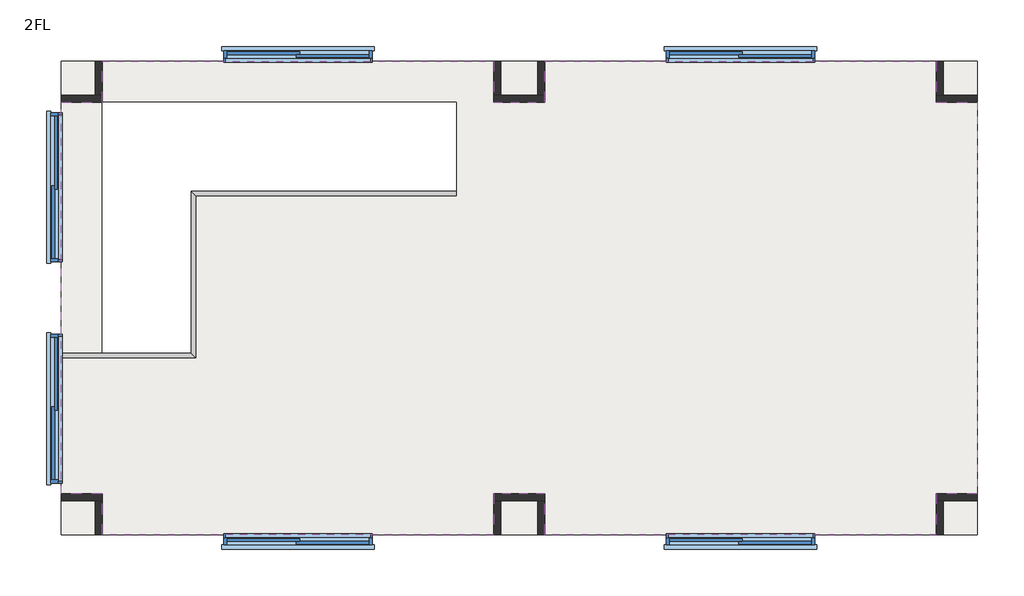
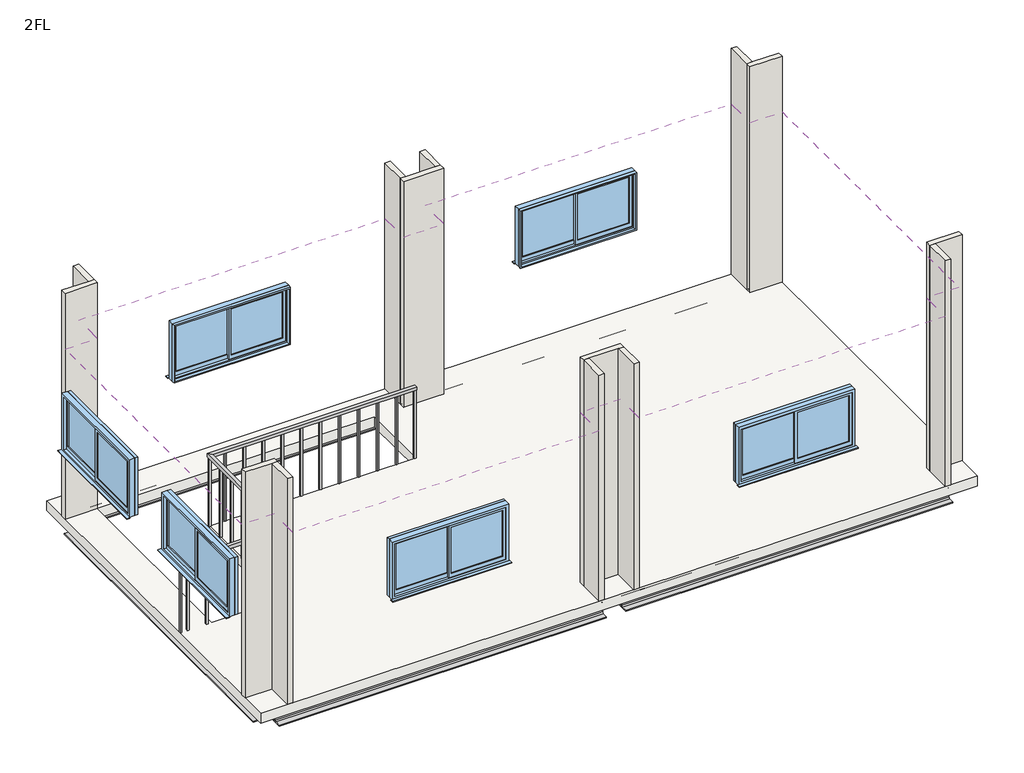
# One storey: 14 walls, 7 beams, 6 windows, 1 covering, 1 railing, 1 slab.
"""IFC4 building model written with IfcOpenShell, lengths in millimetres."""

import ifcopenshell
import ifcopenshell.guid

model = None  # the IFC model being written
_history = None  # IfcOwnerHistory: only IFC2X3 demands one
_inside = {}  # id of a spatial element -> (the spatial element, [elements in it])
_under = {}  # id of a project, library or spatial element -> (it, [spatial elements below it])
_declared = {}  # id of a project -> (the project, [libraries it declares])
_typed = {}  # id of a type object -> (the type object, [elements of that type])
_made_of = {}  # id of a material, layer set ... -> (it, [elements and type objects made of it])


def new_model(schema):
    """Start an empty IFC model of exactly this schema.

    Asked for "IFC4X3", IfcOpenShell would pick the latest addendum, in which some entities
    have other attributes; the version numbers below select the first issue.
    IFC2X3 requires an IfcOwnerHistory on every rooted entity: one is made here for all.
    """
    global model, _history
    if schema == "IFC4X3":
        model = ifcopenshell.file(schema_version=(4, 3, 0, 0))
    else:
        model = ifcopenshell.file(schema=schema)
    _inside.clear()
    _under.clear()
    _declared.clear()
    _typed.clear()
    _made_of.clear()
    _history = None
    if model.schema == "IFC2X3":
        org = make("IfcOrganization", Name="unknown")
        user = make(
            "IfcPersonAndOrganization",
            ThePerson=make("IfcPerson", FamilyName="unknown"),
            TheOrganization=org,
        )
        app = make(
            "IfcApplication",
            ApplicationDeveloper=org,
            Version="unknown",
            ApplicationFullName="unknown",
            ApplicationIdentifier="unknown",
        )
        _history = make(
            "IfcOwnerHistory",
            OwningUser=user,
            OwningApplication=app,
            ChangeAction="ADDED",
            CreationDate=0,
        )
    return model


def make(cls, **values):
    """One entity of the class cls with the attributes given. An attribute that is None is left unset."""
    return model.create_entity(
        cls, **{name: value for name, value in values.items() if value is not None}
    )


def rooted(cls, **values):
    """An entity with a GlobalId (a new one), such as an element, a storey or a relation."""
    return make(cls, GlobalId=ifcopenshell.guid.new(), OwnerHistory=_history, **values)


def si_unit(unit_type, name, prefix=None):
    """IfcSIUnit, for example si_unit("LENGTHUNIT", "METRE", prefix="MILLI")."""
    return make("IfcSIUnit", UnitType=unit_type, Prefix=prefix, Name=name)


def assignment(units):
    """IfcUnitAssignment: the units of a project."""
    return None if units is None else make("IfcUnitAssignment", Units=units)


def point(xyz):
    """IfcCartesianPoint."""
    return None if xyz is None else make("IfcCartesianPoint", Coordinates=xyz)


def direction(xyz):
    """IfcDirection."""
    return None if xyz is None else make("IfcDirection", DirectionRatios=xyz)


def frame(location, z_axis=None, x_axis=None):
    """IfcAxis2Placement3D, a coordinate frame: its origin and axes. An axis left out is left unset."""
    return make(
        "IfcAxis2Placement3D",
        Location=point(location),
        Axis=direction(z_axis),
        RefDirection=direction(x_axis),
    )


def frame_2d(location, x_axis=None):
    """IfcAxis2Placement2D, a coordinate frame in the plane: its origin and x axis."""
    return make(
        "IfcAxis2Placement2D", Location=point(location), RefDirection=direction(x_axis)
    )


def origin():
    """The frame at (0, 0, 0) with its axes left unset."""
    return frame((0.0, 0.0, 0.0))


def place(relative_to, where):
    """IfcLocalPlacement: puts the frame where relative to a parent placement (None: the world)."""
    return make(
        "IfcLocalPlacement", PlacementRelTo=relative_to, RelativePlacement=where
    )


def context(
    kind, dimensions, precision=None, world=None, true_north=None, identifier=None
):
    """IfcGeometricRepresentationContext, for example the 3D "Model" context."""
    return make(
        "IfcGeometricRepresentationContext",
        ContextIdentifier=identifier,
        ContextType=kind,
        CoordinateSpaceDimension=dimensions,
        Precision=precision,
        WorldCoordinateSystem=world,
        TrueNorth=true_north,
    )


def project(units=None, contexts=None):
    """IfcProject with its units and contexts."""
    return rooted(
        "IfcProject",
        Name="project",
        RepresentationContexts=contexts,
        UnitsInContext=assignment(units),
    )


def spatial(cls, under=None, at=None, **own):
    """A site, building, storey or space (cls), placed at a placement, below another one or the project."""
    s = rooted(cls, ObjectPlacement=at, **own)
    if under is not None:
        _under.setdefault(under.id(), (under, []))[1].append(s)
    return s


def polyline(points):
    """IfcPolyline through the points."""
    return make("IfcPolyline", Points=[point(p) for p in points])


def circle_curve(where, radius):
    """IfcCircle in the frame where."""
    return make("IfcCircle", Position=where, Radius=radius)


def trimmed(basis, trim1, trim2, sense, master):
    """IfcTrimmedCurve: the piece of a basis curve between two trims."""
    return make(
        "IfcTrimmedCurve",
        BasisCurve=basis,
        Trim1=trim1,
        Trim2=trim2,
        SenseAgreement=sense,
        MasterRepresentation=master,
    )


def segment(curve, same_sense, transition):
    """IfcCompositeCurveSegment."""
    return make(
        "IfcCompositeCurveSegment",
        Transition=transition,
        SameSense=same_sense,
        ParentCurve=curve,
    )


def composite_curve(segments, self_intersect=None):
    """IfcCompositeCurve: segments joined end to end."""
    return make("IfcCompositeCurve", Segments=segments, SelfIntersect=self_intersect)


def outline(outer, holes=None, kind="AREA"):
    """IfcArbitraryClosedProfileDef: a profile drawn as a closed curve; with holes, ...WithVoids."""
    if holes is None:
        return make("IfcArbitraryClosedProfileDef", ProfileType=kind, OuterCurve=outer)
    return make(
        "IfcArbitraryProfileDefWithVoids",
        ProfileType=kind,
        OuterCurve=outer,
        InnerCurves=holes,
    )


def extrude(swept, where, along, depth):
    """IfcExtrudedAreaSolid: the profile swept, set in the frame where, extruded along a direction by depth."""
    return make(
        "IfcExtrudedAreaSolid",
        SweptArea=swept,
        Position=where,
        ExtrudedDirection=direction(along),
        Depth=depth,
    )


def faces_of(points, faces, orient=None, outer=None):
    """IfcFace entities. A face is a list of loops; a loop is a list of indices into points, from 0.

    orient and outer hold one flag for each loop. By default every Orientation is true, the
    first loop of a face is its IfcFaceOuterBound and the others are IfcFaceBound.
    """
    made = []
    for i, loops in enumerate(faces):
        bounds = []
        for j, loop in enumerate(loops):
            is_outer = j == 0 if outer is None else outer[i][j]
            bounds.append(
                make(
                    "IfcFaceOuterBound" if is_outer else "IfcFaceBound",
                    Bound=make("IfcPolyLoop", Polygon=[points[k] for k in loop]),
                    Orientation=True if orient is None else orient[i][j],
                )
            )
        made.append(make("IfcFace", Bounds=bounds))
    return made


def faceted_brep(points, faces, orient=None, outer=None, voids=None):
    """IfcFacetedBrep: a solid bounded by flat faces; with voids (closed shells), ...WithVoids."""
    shared = [point(p) for p in points]
    hull = make("IfcClosedShell", CfsFaces=faces_of(shared, faces, orient, outer))
    if voids is None:
        return make("IfcFacetedBrep", Outer=hull)
    return make(
        "IfcFacetedBrepWithVoids",
        Outer=hull,
        Voids=[
            make(cls, CfsFaces=faces_of(shared, fs, o, b)) for cls, fs, o, b in voids
        ],
    )


def shape(context_of_items, identifier, shape_type, items):
    """IfcShapeRepresentation: the items that make up one representation, for example the "Body"."""
    return make(
        "IfcShapeRepresentation",
        ContextOfItems=context_of_items,
        RepresentationIdentifier=identifier,
        RepresentationType=shape_type,
        Items=items,
    )


def source(mapping_origin, context_of_items, identifier, shape_type, items):
    """IfcRepresentationMap: a shape defined once, which mapped items show again and again."""
    return make(
        "IfcRepresentationMap",
        MappingOrigin=mapping_origin,
        MappedRepresentation=shape(context_of_items, identifier, shape_type, items),
    )


def transform(
    local_origin,
    x_axis=None,
    y_axis=None,
    z_axis=None,
    scale=None,
    scale2=None,
    scale3=None,
    uniform=True,
):
    """IfcCartesianTransformationOperator3D, or its non-uniform kind. x_axis, y_axis, z_axis: its Axis1, 2, 3."""
    if uniform:
        return make(
            "IfcCartesianTransformationOperator3D",
            Axis1=direction(x_axis),
            Axis2=direction(y_axis),
            LocalOrigin=point(local_origin),
            Scale=scale,
            Axis3=direction(z_axis),
        )
    return make(
        "IfcCartesianTransformationOperator3DnonUniform",
        Axis1=direction(x_axis),
        Axis2=direction(y_axis),
        LocalOrigin=point(local_origin),
        Scale=scale,
        Axis3=direction(z_axis),
        Scale2=scale2,
        Scale3=scale3,
    )


def mapped(mapping_source, mapping_target):
    """IfcMappedItem: shows the shape of a source again, moved by a transform."""
    return make(
        "IfcMappedItem", MappingSource=mapping_source, MappingTarget=mapping_target
    )


def made_of(thing, what):
    """Note that an element or type object is made of a material, layer set ...; save() writes the relation."""
    if what is not None:
        _made_of.setdefault(what.id(), (what, []))[1].append(thing)
    return thing


def element(
    cls,
    number,
    at=None,
    inside=None,
    cuts=None,
    type_object=None,
    material=None,
    context=None,
    identifier="Body",
    shape_type=None,
    held_by="IfcProductDefinitionShape",
    body=None,
    shapes=None,
    **own,
):
    """One element of the class cls, such as IfcWall. Its Tag is "e" and its number.

    at: its placement. inside: the storey or other place that contains it. cuts: it is an
    opening in that element (IfcRelVoidsElement). A single representation is given by context,
    identifier, shape_type and body (its items); several are given by shapes. held_by: the class
    of the entity that holds the representations. save() writes the other relations.
    """
    e = rooted(cls, Tag="e%d" % number, ObjectPlacement=at, **own)
    if body is not None:
        shapes = [shape(context, identifier, shape_type, body)]
    if shapes is not None:
        e.Representation = make(held_by, Representations=shapes)
    if inside is not None:
        _inside.setdefault(inside.id(), (inside, []))[1].append(e)
    if cuts is not None:
        rooted(
            "IfcRelVoidsElement", RelatingBuildingElement=cuts, RelatedOpeningElement=e
        )
    if type_object is not None:
        _typed.setdefault(type_object.id(), (type_object, []))[1].append(e)
    return made_of(e, material)


def aggregate(whole, parts):
    """IfcRelAggregates: a whole, such as a stair, and the parts it consists of."""
    return rooted("IfcRelAggregates", RelatingObject=whole, RelatedObjects=parts)


def save(model, path):
    """Write the relations noted so far, then the file.

    IfcRelAggregates (storeys below a building ...), IfcRelContainedInSpatialStructure (elements
    in a storey), IfcRelDefinesByType, IfcRelAssociatesMaterial and IfcRelDeclares: one each for
    every whole, place, type object, material and project.
    """
    for whole, parts in _under.values():
        aggregate(whole, parts)
    for where, things in _inside.values():
        rooted(
            "IfcRelContainedInSpatialStructure",
            RelatedElements=things,
            RelatingStructure=where,
        )
    for kind, things in _typed.values():
        rooted("IfcRelDefinesByType", RelatedObjects=things, RelatingType=kind)
    for what, things in _made_of.values():
        rooted("IfcRelAssociatesMaterial", RelatedObjects=things, RelatingMaterial=what)
    for by, libraries in _declared.values():
        rooted("IfcRelDeclares", RelatingContext=by, RelatedDefinitions=libraries)
    model.write(path)


def heb200_d26bcb9a(model_context):
    return source(origin(), model_context, "Body", "SweptSolid", [
        extrude(outline(composite_curve([segment(polyline([(100.0, -85.0), (100.0, -100.0), (-100.0, -100.0), (-100.0, -85.0), (-22.5, -85.0)]), True, "CONTINUOUS"), segment(trimmed(circle_curve(frame_2d((-22.5, -67.0)), 18.0), [point((-22.5, -85.0))], [point((-4.5, -67.0))], True, "CARTESIAN"), True, "CONTINUOUS"), segment(polyline([(-4.5, -67.0), (-4.5, 67.0)]), True, "CONTINUOUS"), segment(trimmed(circle_curve(frame_2d((-22.5, 67.0)), 18.0), [point((-4.5, 67.0))], [point((-22.5, 85.0))], True, "CARTESIAN"), True, "CONTINUOUS"), segment(polyline([(-22.5, 85.0), (-100.0, 85.0), (-100.0, 100.0), (100.0, 100.0), (100.0, 85.0), (22.5, 85.0)]), True, "CONTINUOUS"), segment(trimmed(circle_curve(frame_2d((22.5, 67.0)), 18.0), [point((22.5, 85.0))], [point((4.5, 67.0))], True, "CARTESIAN"), True, "CONTINUOUS"), segment(polyline([(4.5, 67.0), (4.5, -67.0)]), True, "CONTINUOUS"), segment(trimmed(circle_curve(frame_2d((22.5, -67.0)), 18.0), [point((4.5, -67.0))], [point((22.5, -85.0))], True, "CARTESIAN"), True, "CONTINUOUS"), segment(polyline([(22.5, -85.0), (100.0, -85.0)]), True, "CONTINUOUS")], self_intersect=False)), frame((-2362.3, 0.0, 0.0), z_axis=(1.0, 0.0, 0.0), x_axis=(0.0, 1.0, 0.0)), (0.0, 0.0, 1.0), 4724.6),
    ])


def w1600h0800_d7cd19be(model_context):
    return source(origin(), model_context, "Body", "SweptSolid", [
        extrude(outline(polyline([(-20.0, 12.5), (-760.0, 12.5), (-760.0, 17.5), (-20.0, 17.5), (-20.0, 12.5)])), frame((0.0, 0.0, 1260.0), z_axis=(0.0, 0.0, 1.0), x_axis=(1.0, 0.0, 0.0)), (0.0, 0.0, 1.0), 700.0),
        extrude(outline(polyline([(760.0, -17.5), (20.0, -17.5), (20.0, -12.5), (760.0, -12.5), (760.0, -17.5)])), frame((0.0, 0.0, 1260.0), z_axis=(0.0, 0.0, 1.0), x_axis=(1.0, 0.0, 0.0)), (0.0, 0.0, 1.0), 700.0),
        extrude(outline(polyline([(2000.0, -20.0), (1200.0, -20.0), (1200.0, 800.0), (2000.0, 800.0), (2000.0, -20.0)]), holes=[polyline([(1260.0, 760.0), (1260.0, 20.0), (1960.0, 20.0), (1960.0, 760.0), (1260.0, 760.0)])]), frame((0.0, -30.0, 0.0), z_axis=(0.0, 1.0, 0.0), x_axis=(0.0, 0.0, 1.0)), (0.0, 0.0, 1.0), 30.0),
        extrude(outline(polyline([(2000.0, -800.0), (1200.0, -800.0), (1200.0, 20.0), (2000.0, 20.0), (2000.0, -800.0)]), holes=[polyline([(1260.0, -20.0), (1260.0, -760.0), (1960.0, -760.0), (1960.0, -20.0), (1260.0, -20.0)])]), frame((0.0, 0.0, 0.0), z_axis=(0.0, 1.0, 0.0), x_axis=(0.0, 0.0, 1.0)), (0.0, 0.0, 1.0), 30.0),
        extrude(outline(polyline([(860.0, 90.0), (860.0, 40.0), (-860.0, 40.0), (-860.0, 90.0), (860.0, 90.0)])), frame((0.0, 0.0, 1160.0), z_axis=(0.0, 0.0, 1.0), x_axis=(1.0, 0.0, 0.0)), (0.0, 0.0, 1.0), 10.0),
        extrude(outline(polyline([(2040.0, 840.0), (2040.0, -840.0), (1160.0, -840.0), (1160.0, 840.0), (2040.0, 840.0)]), holes=[polyline([(1180.0, -820.0), (2020.0, -820.0), (2020.0, 820.0), (1180.0, 820.0), (1180.0, -820.0)])]), frame((0.0, -85.0, 0.0), z_axis=(0.0, 1.0, 0.0), x_axis=(0.0, 0.0, 1.0)), (0.0, 0.0, 1.0), 45.0),
        extrude(outline(polyline([(2040.0, -840.0), (1160.0, -840.0), (1160.0, 840.0), (2040.0, 840.0), (2040.0, -840.0)]), holes=[polyline([(2000.0, 800.0), (1200.0, 800.0), (1200.0, -800.0), (2000.0, -800.0), (2000.0, 800.0)])]), frame((0.0, -40.0, 0.0), z_axis=(0.0, 1.0, 0.0), x_axis=(0.0, 0.0, 1.0)), (0.0, 0.0, 1.0), 80.0),
    ])


model = new_model("IFC4")

# Units and contexts
model_context = context("Model", 3, world=origin())
ifc_project = project(units=[si_unit("LENGTHUNIT", "METRE", prefix="MILLI")], contexts=[model_context])

# Site, building, storey
site = spatial("IfcSite", under=ifc_project)
building = spatial("IfcBuilding", under=site)
storey = spatial("IfcBuildingStorey", under=building, Name="2FL", Elevation=3800.0)

# Beams
placement = place(None, origin())
heb200_shape = heb200_d26bcb9a(model_context)
element("IfcBeam", 1, ObjectType="HE-B : HEB200", at=placement, inside=storey, context=model_context, shape_type="MappedRepresentation", body=[
    mapped(heb200_shape, transform((-5047.3880564, 86.0382733, 3550.0), x_axis=(0.0, -1.0, 0.0), y_axis=(1.0, 0.0, 0.0), z_axis=(0.0, 0.0, 1.0))),
])
element("IfcBeam", 2, ObjectType="HE-B : HEB200", at=placement, inside=storey, context=model_context, shape_type="MappedRepresentation", body=[
    mapped(heb200_shape, transform((-47.3880564, 86.0382733, 3550.0), x_axis=(0.0, -1.0, 0.0), y_axis=(1.0, 0.0, 0.0), z_axis=(0.0, 0.0, 1.0))),
])
element("IfcBeam", 3, ObjectType="HE-B : HEB200", at=placement, inside=storey, context=model_context, shape_type="MappedRepresentation", body=[
    mapped(heb200_shape, transform((4952.6119436, 86.0382733, 3550.0), x_axis=(0.0, -1.0, 0.0), y_axis=(1.0, 0.0, 0.0), z_axis=(0.0, 0.0, 1.0))),
])
element("IfcBeam", 4, ObjectType="HE-B : HEB200", at=placement, inside=storey, context=model_context, shape_type="MappedRepresentation", body=[
    mapped(heb200_shape, transform((2452.6119436, -2413.9617267, 3550.0), x_axis=(-1.0, 0.0, 0.0), y_axis=(0.0, -1.0, 0.0), z_axis=(0.0, 0.0, 1.0))),
])
element("IfcBeam", 5, ObjectType="HE-B : HEB200", at=placement, inside=storey, context=model_context, shape_type="MappedRepresentation", body=[
    mapped(heb200_shape, transform((-2547.3880564, -2413.9617267, 3550.0), x_axis=(-1.0, 0.0, 0.0), y_axis=(0.0, -1.0, 0.0), z_axis=(0.0, 0.0, 1.0))),
])
element("IfcBeam", 6, ObjectType="HE-B : HEB200", at=placement, inside=storey, context=model_context, shape_type="MappedRepresentation", body=[
    mapped(heb200_shape, transform((2452.6119436, 2586.0382733, 3550.0), x_axis=(-1.0, 0.0, 0.0), y_axis=(0.0, -1.0, 0.0), z_axis=(0.0, 0.0, 1.0))),
])
element("IfcBeam", 7, ObjectType="HE-B : HEB200", at=placement, inside=storey, context=model_context, shape_type="MappedRepresentation", body=[
    mapped(heb200_shape, transform((-2547.3880564, 2586.0382733, 3550.0), x_axis=(-1.0, 0.0, 0.0), y_axis=(0.0, -1.0, 0.0), z_axis=(0.0, 0.0, 1.0))),
])

# Covering
element("IfcCovering", 8, ObjectType="グリッド 600x600mm", at=placement, inside=storey, context=model_context, shape_type="SweptSolid", body=[
    extrude(outline(polyline([(-4757.8880564, 2296.5382733), (-4757.8880564, 2761.0382733), (-336.8880564, 2761.0382733), (-336.8880564, 2296.5382733), (242.1119436, 2296.5382733), (242.1119436, 2761.0382733), (4663.1119436, 2761.0382733), (4663.1119436, 2296.5382733), (5127.6119436, 2296.5382733), (5127.6119436, -2124.4617267), (4663.1119436, -2124.4617267), (4663.1119436, -2588.9617267), (242.1119436, -2588.9617267), (242.1119436, -2124.4617267), (-336.8880564, -2124.4617267), (-336.8880564, -2588.9617267), (-4757.8880564, -2588.9617267), (-4757.8880564, -2124.4617267), (-5222.3880564, -2124.4617267), (-5222.3880564, 2296.5382733), (-4757.8880564, 2296.5382733)])), frame((0.0, 0.0, 6400.0), z_axis=(0.0, 0.0, 1.0), x_axis=(1.0, 0.0, 0.0)), (0.0, 0.0, 1.0), 52.0),
])

# Railing
element("IfcRailing", 9, ObjectType="1100mm", at=placement, inside=storey, context=model_context, shape_type="SolidModel", body=[
    faceted_brep([(-757.3880564, 1241.5382733, 4900.0), (-757.3880564, 1241.5382733, 4850.0), (-757.3880564, 1291.5382733, 4850.0), (-757.3880564, 1291.5382733, 4900.0), (-3702.8880564, 1241.5382733, 4900.0), (-3702.8880564, 1241.5382733, 4850.0), (-3752.8880564, 1291.5382733, 4850.0), (-3752.8880564, 1291.5382733, 4900.0), (-3702.8880564, -588.9617267, 4900.0), (-3702.8880564, -588.9617267, 4850.0), (-3752.8880564, -538.9617267, 4850.0), (-3752.8880564, -538.9617267, 4900.0), (-5222.3880564, -588.9617267, 4900.0), (-5222.3880564, -538.9617267, 4900.0), (-5222.3880564, -538.9617267, 4850.0), (-5222.3880564, -588.9617267, 4850.0)], [[[0, 1, 2, 3]], [[1, 0, 4, 5]], [[2, 1, 5, 6]], [[3, 2, 6, 7]], [[0, 3, 7, 4]], [[5, 4, 8, 9]], [[6, 5, 9, 10]], [[7, 6, 10, 11]], [[4, 7, 11, 8]], [[12, 13, 14, 15]], [[9, 8, 12, 15]], [[10, 9, 15, 14]], [[11, 10, 14, 13]], [[8, 11, 13, 12]]]),
    extrude(outline(polyline([(-5090.3880564, -551.4617267), (-5090.3880564, -576.4617267), (-5115.3880564, -576.4617267), (-5115.3880564, -551.4617267), (-5090.3880564, -551.4617267)])), frame((0.0, 0.0, 3800.0), z_axis=(0.0, 0.0, 1.0), x_axis=(1.0, 0.0, 0.0)), (0.0, 0.0, 1.0), 1050.0),
    extrude(outline(polyline([(-4815.3880564, -551.4617267), (-4815.3880564, -576.4617267), (-4840.3880564, -576.4617267), (-4840.3880564, -551.4617267), (-4815.3880564, -551.4617267)])), frame((0.0, 0.0, 3800.0), z_axis=(0.0, 0.0, 1.0), x_axis=(1.0, 0.0, 0.0)), (0.0, 0.0, 1.0), 1050.0),
    extrude(outline(polyline([(-4540.3880564, -551.4617267), (-4540.3880564, -576.4617267), (-4565.3880564, -576.4617267), (-4565.3880564, -551.4617267), (-4540.3880564, -551.4617267)])), frame((0.0, 0.0, 3800.0), z_axis=(0.0, 0.0, 1.0), x_axis=(1.0, 0.0, 0.0)), (0.0, 0.0, 1.0), 1050.0),
    extrude(outline(polyline([(-4265.3880564, -551.4617267), (-4265.3880564, -576.4617267), (-4290.3880564, -576.4617267), (-4290.3880564, -551.4617267), (-4265.3880564, -551.4617267)])), frame((0.0, 0.0, 3800.0), z_axis=(0.0, 0.0, 1.0), x_axis=(1.0, 0.0, 0.0)), (0.0, 0.0, 1.0), 1050.0),
    extrude(outline(polyline([(-3990.3880564, -551.4617267), (-3990.3880564, -576.4617267), (-4015.3880564, -576.4617267), (-4015.3880564, -551.4617267), (-3990.3880564, -551.4617267)])), frame((0.0, 0.0, 3800.0), z_axis=(0.0, 0.0, 1.0), x_axis=(1.0, 0.0, 0.0)), (0.0, 0.0, 1.0), 1050.0),
    extrude(outline(polyline([(-3740.3880564, -370.9617267), (-3715.3880564, -370.9617267), (-3715.3880564, -395.9617267), (-3740.3880564, -395.9617267), (-3740.3880564, -370.9617267)])), frame((0.0, 0.0, 3800.0), z_axis=(0.0, 0.0, 1.0), x_axis=(1.0, 0.0, 0.0)), (0.0, 0.0, 1.0), 1050.0),
    extrude(outline(polyline([(-3740.3880564, -95.9617267), (-3715.3880564, -95.9617267), (-3715.3880564, -120.9617267), (-3740.3880564, -120.9617267), (-3740.3880564, -95.9617267)])), frame((0.0, 0.0, 3800.0), z_axis=(0.0, 0.0, 1.0), x_axis=(1.0, 0.0, 0.0)), (0.0, 0.0, 1.0), 1050.0),
    extrude(outline(polyline([(-3740.3880564, 179.0382733), (-3715.3880564, 179.0382733), (-3715.3880564, 154.0382733), (-3740.3880564, 154.0382733), (-3740.3880564, 179.0382733)])), frame((0.0, 0.0, 3800.0), z_axis=(0.0, 0.0, 1.0), x_axis=(1.0, 0.0, 0.0)), (0.0, 0.0, 1.0), 1050.0),
    extrude(outline(polyline([(-3740.3880564, 454.0382733), (-3715.3880564, 454.0382733), (-3715.3880564, 429.0382733), (-3740.3880564, 429.0382733), (-3740.3880564, 454.0382733)])), frame((0.0, 0.0, 3800.0), z_axis=(0.0, 0.0, 1.0), x_axis=(1.0, 0.0, 0.0)), (0.0, 0.0, 1.0), 1050.0),
    extrude(outline(polyline([(-3740.3880564, 729.0382733), (-3715.3880564, 729.0382733), (-3715.3880564, 704.0382733), (-3740.3880564, 704.0382733), (-3740.3880564, 729.0382733)])), frame((0.0, 0.0, 3800.0), z_axis=(0.0, 0.0, 1.0), x_axis=(1.0, 0.0, 0.0)), (0.0, 0.0, 1.0), 1050.0),
    extrude(outline(polyline([(-3740.3880564, 1004.0382733), (-3715.3880564, 1004.0382733), (-3715.3880564, 979.0382733), (-3740.3880564, 979.0382733), (-3740.3880564, 1004.0382733)])), frame((0.0, 0.0, 3800.0), z_axis=(0.0, 0.0, 1.0), x_axis=(1.0, 0.0, 0.0)), (0.0, 0.0, 1.0), 1050.0),
    extrude(outline(polyline([(-3494.8880564, 1279.0382733), (-3494.8880564, 1254.0382733), (-3519.8880564, 1254.0382733), (-3519.8880564, 1279.0382733), (-3494.8880564, 1279.0382733)])), frame((0.0, 0.0, 3800.0), z_axis=(0.0, 0.0, 1.0), x_axis=(1.0, 0.0, 0.0)), (0.0, 0.0, 1.0), 1050.0),
    extrude(outline(polyline([(-3219.8880564, 1279.0382733), (-3219.8880564, 1254.0382733), (-3244.8880564, 1254.0382733), (-3244.8880564, 1279.0382733), (-3219.8880564, 1279.0382733)])), frame((0.0, 0.0, 3800.0), z_axis=(0.0, 0.0, 1.0), x_axis=(1.0, 0.0, 0.0)), (0.0, 0.0, 1.0), 1050.0),
    extrude(outline(polyline([(-2944.8880564, 1279.0382733), (-2944.8880564, 1254.0382733), (-2969.8880564, 1254.0382733), (-2969.8880564, 1279.0382733), (-2944.8880564, 1279.0382733)])), frame((0.0, 0.0, 3800.0), z_axis=(0.0, 0.0, 1.0), x_axis=(1.0, 0.0, 0.0)), (0.0, 0.0, 1.0), 1050.0),
    extrude(outline(polyline([(-2669.8880564, 1279.0382733), (-2669.8880564, 1254.0382733), (-2694.8880564, 1254.0382733), (-2694.8880564, 1279.0382733), (-2669.8880564, 1279.0382733)])), frame((0.0, 0.0, 3800.0), z_axis=(0.0, 0.0, 1.0), x_axis=(1.0, 0.0, 0.0)), (0.0, 0.0, 1.0), 1050.0),
    extrude(outline(polyline([(-2394.8880564, 1279.0382733), (-2394.8880564, 1254.0382733), (-2419.8880564, 1254.0382733), (-2419.8880564, 1279.0382733), (-2394.8880564, 1279.0382733)])), frame((0.0, 0.0, 3800.0), z_axis=(0.0, 0.0, 1.0), x_axis=(1.0, 0.0, 0.0)), (0.0, 0.0, 1.0), 1050.0),
    extrude(outline(polyline([(-2119.8880564, 1279.0382733), (-2119.8880564, 1254.0382733), (-2144.8880564, 1254.0382733), (-2144.8880564, 1279.0382733), (-2119.8880564, 1279.0382733)])), frame((0.0, 0.0, 3800.0), z_axis=(0.0, 0.0, 1.0), x_axis=(1.0, 0.0, 0.0)), (0.0, 0.0, 1.0), 1050.0),
    extrude(outline(polyline([(-1844.8880564, 1279.0382733), (-1844.8880564, 1254.0382733), (-1869.8880564, 1254.0382733), (-1869.8880564, 1279.0382733), (-1844.8880564, 1279.0382733)])), frame((0.0, 0.0, 3800.0), z_axis=(0.0, 0.0, 1.0), x_axis=(1.0, 0.0, 0.0)), (0.0, 0.0, 1.0), 1050.0),
    extrude(outline(polyline([(-1569.8880564, 1279.0382733), (-1569.8880564, 1254.0382733), (-1594.8880564, 1254.0382733), (-1594.8880564, 1279.0382733), (-1569.8880564, 1279.0382733)])), frame((0.0, 0.0, 3800.0), z_axis=(0.0, 0.0, 1.0), x_axis=(1.0, 0.0, 0.0)), (0.0, 0.0, 1.0), 1050.0),
    extrude(outline(polyline([(-1294.8880564, 1279.0382733), (-1294.8880564, 1254.0382733), (-1319.8880564, 1254.0382733), (-1319.8880564, 1279.0382733), (-1294.8880564, 1279.0382733)])), frame((0.0, 0.0, 3800.0), z_axis=(0.0, 0.0, 1.0), x_axis=(1.0, 0.0, 0.0)), (0.0, 0.0, 1.0), 1050.0),
    extrude(outline(polyline([(-1019.8880564, 1279.0382733), (-1019.8880564, 1254.0382733), (-1044.8880564, 1254.0382733), (-1044.8880564, 1279.0382733), (-1019.8880564, 1279.0382733)])), frame((0.0, 0.0, 3800.0), z_axis=(0.0, 0.0, 1.0), x_axis=(1.0, 0.0, 0.0)), (0.0, 0.0, 1.0), 1050.0),
    extrude(outline(polyline([(-3740.3880564, -551.4617267), (-3715.3880564, -551.4617267), (-3715.3880564, -576.4617267), (-3740.3880564, -576.4617267), (-3740.3880564, -551.4617267)])), frame((0.0, 0.0, 3800.0), z_axis=(0.0, 0.0, 1.0), x_axis=(1.0, 0.0, 0.0)), (0.0, 0.0, 1.0), 1050.0),
    extrude(outline(polyline([(-3715.3880564, 1279.0382733), (-3715.3880564, 1254.0382733), (-3740.3880564, 1254.0382733), (-3740.3880564, 1279.0382733), (-3715.3880564, 1279.0382733)])), frame((0.0, 0.0, 3800.0), z_axis=(0.0, 0.0, 1.0), x_axis=(1.0, 0.0, 0.0)), (0.0, 0.0, 1.0), 1050.0),
    extrude(outline(polyline([(-5197.3880564, -551.4617267), (-5197.3880564, -576.4617267), (-5222.3880564, -576.4617267), (-5222.3880564, -551.4617267), (-5197.3880564, -551.4617267)])), frame((0.0, 0.0, 3800.0), z_axis=(0.0, 0.0, 1.0), x_axis=(1.0, 0.0, 0.0)), (0.0, 0.0, 1.0), 1050.0),
    extrude(outline(polyline([(-757.3880564, 1279.0382733), (-757.3880564, 1254.0382733), (-782.3880564, 1254.0382733), (-782.3880564, 1279.0382733), (-757.3880564, 1279.0382733)])), frame((0.0, 0.0, 3800.0), z_axis=(0.0, 0.0, 1.0), x_axis=(1.0, 0.0, 0.0)), (0.0, 0.0, 1.0), 1050.0),
])

# Slab
element("IfcSlab", 10, ObjectType="一般 150 mm", at=placement, inside=storey, context=model_context, shape_type="SweptSolid", body=[
    extrude(outline(polyline([(5127.6119436, 2761.0382733), (5127.6119436, -2588.9617267), (-5222.3880564, -2588.9617267), (-5222.3880564, 2761.0382733), (5127.6119436, 2761.0382733)]), holes=[polyline([(-3727.8880564, 1266.5382733), (-757.3880564, 1266.5382733), (-757.3880564, 2296.5382733), (-4757.8880564, 2296.5382733), (-4757.8880564, -563.9617267), (-3727.8880564, -563.9617267), (-3727.8880564, 1266.5382733)])]), frame((0.0, 0.0, 3650.0), z_axis=(0.0, 0.0, 1.0), x_axis=(1.0, 0.0, 0.0)), (0.0, 0.0, 1.0), 150.0),
])

# Walls
element("IfcWall", 11, ObjectType="内壁-79mm 間仕切り(1時間)", at=placement, inside=storey, context=model_context, shape_type="SweptSolid", body=[
    extrude(outline(polyline([(-4836.8880564, 2375.5382733), (-4836.8880564, 2761.0382733), (-4757.8880564, 2761.0382733), (-4757.8880564, 2375.5382733), (-4836.8880564, 2375.5382733)])), frame((0.0, 0.0, 3800.0), z_axis=(0.0, 0.0, 1.0), x_axis=(1.0, 0.0, 0.0)), (0.0, 0.0, 1.0), 3450.0),
])
element("IfcWall", 12, ObjectType="内壁-79mm 間仕切り(1時間)", at=placement, inside=storey, context=model_context, shape_type="Brep", body=[
    faceted_brep([(-4757.8880564, 2375.5382733, 3800.0), (-4836.8880564, 2375.5382733, 3800.0), (-5222.3880564, 2375.5382733, 3800.0), (-5222.3880564, 2375.5382733, 7250.0), (-4836.8880564, 2375.5382733, 7250.0), (-4757.8880564, 2375.5382733, 7250.0), (-4757.8880564, 2296.5382733, 3800.0), (-4757.8880564, 2296.5382733, 7250.0), (-5222.3880564, 2296.5382733, 7250.0), (-5222.3880564, 2296.5382733, 3800.0)], [[[0, 1, 2, 3, 4, 5]], [[6, 7, 8, 9]], [[2, 1, 0, 6, 9]], [[5, 4, 3, 8, 7]], [[0, 5, 7, 6]], [[3, 2, 9, 8]]]),
])
element("IfcWall", 13, ObjectType="内壁-79mm 間仕切り(1時間)", at=placement, inside=storey, context=model_context, shape_type="SweptSolid", body=[
    extrude(outline(polyline([(163.1119436, 2375.5382733), (163.1119436, 2761.0382733), (242.1119436, 2761.0382733), (242.1119436, 2375.5382733), (163.1119436, 2375.5382733)])), frame((0.0, 0.0, 3800.0), z_axis=(0.0, 0.0, 1.0), x_axis=(1.0, 0.0, 0.0)), (0.0, 0.0, 1.0), 3450.0),
])
element("IfcWall", 14, ObjectType="内壁-79mm 間仕切り(1時間)", at=placement, inside=storey, context=model_context, shape_type="Brep", body=[
    faceted_brep([(242.1119436, 2375.5382733, 3800.0), (163.1119436, 2375.5382733, 3800.0), (-257.8880564, 2375.5382733, 3800.0), (-336.8880564, 2375.5382733, 3800.0), (-336.8880564, 2375.5382733, 7250.0), (-257.8880564, 2375.5382733, 7250.0), (163.1119436, 2375.5382733, 7250.0), (242.1119436, 2375.5382733, 7250.0), (242.1119436, 2296.5382733, 3800.0), (242.1119436, 2296.5382733, 7250.0), (-336.8880564, 2296.5382733, 7250.0), (-336.8880564, 2296.5382733, 3800.0)], [[[0, 1, 2, 3, 4, 5, 6, 7]], [[8, 9, 10, 11]], [[3, 2, 1, 0, 8, 11]], [[7, 6, 5, 4, 10, 9]], [[0, 7, 9, 8]], [[4, 3, 11, 10]]]),
])
element("IfcWall", 15, ObjectType="内壁-79mm 間仕切り(1時間)", at=placement, inside=storey, context=model_context, shape_type="SweptSolid", body=[
    extrude(outline(polyline([(-257.8880564, 2761.0382733), (-257.8880564, 2375.5382733), (-336.8880564, 2375.5382733), (-336.8880564, 2761.0382733), (-257.8880564, 2761.0382733)])), frame((0.0, 0.0, 3800.0), z_axis=(0.0, 0.0, 1.0), x_axis=(1.0, 0.0, 0.0)), (0.0, 0.0, 1.0), 3450.0),
])
element("IfcWall", 16, ObjectType="内壁-79mm 間仕切り(1時間)", at=placement, inside=storey, context=model_context, shape_type="SweptSolid", body=[
    extrude(outline(polyline([(4663.1119436, 2375.5382733), (4663.1119436, 2761.0382733), (4742.1119436, 2761.0382733), (4742.1119436, 2375.5382733), (4663.1119436, 2375.5382733)])), frame((0.0, 0.0, 3800.0), z_axis=(0.0, 0.0, 1.0), x_axis=(1.0, 0.0, 0.0)), (0.0, 0.0, 1.0), 3450.0),
])
element("IfcWall", 17, ObjectType="内壁-79mm 間仕切り(1時間)", at=placement, inside=storey, context=model_context, shape_type="Brep", body=[
    faceted_brep([(4663.1119436, 2296.5382733, 3800.0), (5127.6119436, 2296.5382733, 3800.0), (5127.6119436, 2296.5382733, 7250.0), (4663.1119436, 2296.5382733, 7250.0), (4663.1119436, 2375.5382733, 3800.0), (4663.1119436, 2375.5382733, 7250.0), (4742.1119436, 2375.5382733, 7250.0), (5127.6119436, 2375.5382733, 7250.0), (5127.6119436, 2375.5382733, 3800.0), (4742.1119436, 2375.5382733, 3800.0)], [[[0, 1, 2, 3]], [[4, 5, 6, 7, 8, 9]], [[1, 0, 4, 9, 8]], [[3, 2, 7, 6, 5]], [[0, 3, 5, 4]], [[2, 1, 8, 7]]]),
])
element("IfcWall", 18, ObjectType="内壁-79mm 間仕切り(1時間)", at=placement, inside=storey, context=model_context, shape_type="SweptSolid", body=[
    extrude(outline(polyline([(-4757.8880564, -2203.4617267), (-4757.8880564, -2588.9617267), (-4836.8880564, -2588.9617267), (-4836.8880564, -2203.4617267), (-4757.8880564, -2203.4617267)])), frame((0.0, 0.0, 3800.0), z_axis=(0.0, 0.0, 1.0), x_axis=(1.0, 0.0, 0.0)), (0.0, 0.0, 1.0), 3450.0),
])
element("IfcWall", 19, ObjectType="内壁-79mm 間仕切り(1時間)", at=placement, inside=storey, context=model_context, shape_type="Brep", body=[
    faceted_brep([(-4757.8880564, -2124.4617267, 3800.0), (-5222.3880564, -2124.4617267, 3800.0), (-5222.3880564, -2124.4617267, 7250.0), (-4757.8880564, -2124.4617267, 7250.0), (-4757.8880564, -2203.4617267, 3800.0), (-4757.8880564, -2203.4617267, 7250.0), (-4836.8880564, -2203.4617267, 7250.0), (-5222.3880564, -2203.4617267, 7250.0), (-5222.3880564, -2203.4617267, 3800.0), (-4836.8880564, -2203.4617267, 3800.0)], [[[0, 1, 2, 3]], [[4, 5, 6, 7, 8, 9]], [[1, 0, 4, 9, 8]], [[3, 2, 7, 6, 5]], [[0, 3, 5, 4]], [[2, 1, 8, 7]]]),
])
element("IfcWall", 20, ObjectType="内壁-79mm 間仕切り(1時間)", at=placement, inside=storey, context=model_context, shape_type="SweptSolid", body=[
    extrude(outline(polyline([(242.1119436, -2203.4617267), (242.1119436, -2588.9617267), (163.1119436, -2588.9617267), (163.1119436, -2203.4617267), (242.1119436, -2203.4617267)])), frame((0.0, 0.0, 3800.0), z_axis=(0.0, 0.0, 1.0), x_axis=(1.0, 0.0, 0.0)), (0.0, 0.0, 1.0), 3450.0),
])
element("IfcWall", 21, ObjectType="内壁-79mm 間仕切り(1時間)", at=placement, inside=storey, context=model_context, shape_type="Brep", body=[
    faceted_brep([(242.1119436, -2124.4617267, 3800.0), (-336.8880564, -2124.4617267, 3800.0), (-336.8880564, -2124.4617267, 7250.0), (242.1119436, -2124.4617267, 7250.0), (242.1119436, -2203.4617267, 3800.0), (242.1119436, -2203.4617267, 7250.0), (163.1119436, -2203.4617267, 7250.0), (-257.8880564, -2203.4617267, 7250.0), (-336.8880564, -2203.4617267, 7250.0), (-336.8880564, -2203.4617267, 3800.0), (-257.8880564, -2203.4617267, 3800.0), (163.1119436, -2203.4617267, 3800.0)], [[[0, 1, 2, 3]], [[4, 5, 6, 7, 8, 9, 10, 11]], [[1, 0, 4, 11, 10, 9]], [[3, 2, 8, 7, 6, 5]], [[0, 3, 5, 4]], [[2, 1, 9, 8]]]),
])
element("IfcWall", 22, ObjectType="内壁-79mm 間仕切り(1時間)", at=placement, inside=storey, context=model_context, shape_type="SweptSolid", body=[
    extrude(outline(polyline([(-336.8880564, -2588.9617267), (-336.8880564, -2203.4617267), (-257.8880564, -2203.4617267), (-257.8880564, -2588.9617267), (-336.8880564, -2588.9617267)])), frame((0.0, 0.0, 3800.0), z_axis=(0.0, 0.0, 1.0), x_axis=(1.0, 0.0, 0.0)), (0.0, 0.0, 1.0), 3450.0),
])
element("IfcWall", 23, ObjectType="内壁-79mm 間仕切り(1時間)", at=placement, inside=storey, context=model_context, shape_type="SweptSolid", body=[
    extrude(outline(polyline([(4742.1119436, -2203.4617267), (4742.1119436, -2588.9617267), (4663.1119436, -2588.9617267), (4663.1119436, -2203.4617267), (4742.1119436, -2203.4617267)])), frame((0.0, 0.0, 3800.0), z_axis=(0.0, 0.0, 1.0), x_axis=(1.0, 0.0, 0.0)), (0.0, 0.0, 1.0), 3450.0),
])
element("IfcWall", 24, ObjectType="内壁-79mm 間仕切り(1時間)", at=placement, inside=storey, context=model_context, shape_type="Brep", body=[
    faceted_brep([(4663.1119436, -2203.4617267, 3800.0), (4742.1119436, -2203.4617267, 3800.0), (5127.6119436, -2203.4617267, 3800.0), (5127.6119436, -2203.4617267, 7250.0), (4742.1119436, -2203.4617267, 7250.0), (4663.1119436, -2203.4617267, 7250.0), (4663.1119436, -2124.4617267, 3800.0), (4663.1119436, -2124.4617267, 7250.0), (5127.6119436, -2124.4617267, 7250.0), (5127.6119436, -2124.4617267, 3800.0)], [[[0, 1, 2, 3, 4, 5]], [[6, 7, 8, 9]], [[2, 1, 0, 6, 9]], [[5, 4, 3, 8, 7]], [[0, 5, 7, 6]], [[3, 2, 9, 8]]]),
])

# Windows
w1600h0800_shape = w1600h0800_d7cd19be(model_context)
element("IfcWindow", 25, ObjectType="引違い腰窓_2枚 : w1600h0800", at=placement, inside=storey, context=model_context, shape_type="MappedRepresentation", body=[
    mapped(w1600h0800_shape, transform((-5297.3880564, -1163.9617267, 3800.0), x_axis=(0.0, 1.0, 0.0), y_axis=(-1.0, 0.0, 0.0), z_axis=(0.0, 0.0, 1.0))),
])
element("IfcWindow", 26, ObjectType="引違い腰窓_2枚 : w1600h0800", at=placement, inside=storey, context=model_context, shape_type="MappedRepresentation", body=[
    mapped(w1600h0800_shape, transform((-5297.3880564, 1336.0382733, 3800.0), x_axis=(0.0, 1.0, 0.0), y_axis=(-1.0, 0.0, 0.0), z_axis=(0.0, 0.0, 1.0))),
])
element("IfcWindow", 27, ObjectType="引違い腰窓_2枚 : w1600h0800", at=placement, inside=storey, context=model_context, shape_type="MappedRepresentation", body=[
    mapped(w1600h0800_shape, transform((-2547.3880564, -2663.9617267, 3800.0), x_axis=(-1.0, 0.0, 0.0), y_axis=(0.0, -1.0, 0.0), z_axis=(0.0, 0.0, 1.0))),
])
element("IfcWindow", 28, ObjectType="引違い腰窓_2枚 : w1600h0800", at=placement, inside=storey, context=model_context, shape_type="MappedRepresentation", body=[
    mapped(w1600h0800_shape, transform((2452.6119436, -2663.9617267, 3800.0), x_axis=(-1.0, 0.0, 0.0), y_axis=(0.0, -1.0, 0.0), z_axis=(0.0, 0.0, 1.0))),
])
element("IfcWindow", 29, ObjectType="引違い腰窓_2枚 : w1600h0800", at=placement, inside=storey, context=model_context, shape_type="MappedRepresentation", body=[
    mapped(w1600h0800_shape, transform((2452.6119436, 2836.0382733, 3800.0), x_axis=(1.0, 0.0, 0.0), y_axis=(0.0, 1.0, 0.0), z_axis=(0.0, 0.0, 1.0))),
])
element("IfcWindow", 30, ObjectType="引違い腰窓_2枚 : w1600h0800", at=placement, inside=storey, context=model_context, shape_type="MappedRepresentation", body=[
    mapped(w1600h0800_shape, transform((-2547.3880564, 2836.0382733, 3800.0), x_axis=(1.0, 0.0, 0.0), y_axis=(0.0, 1.0, 0.0), z_axis=(0.0, 0.0, 1.0))),
])

save(model, "model.ifc")
